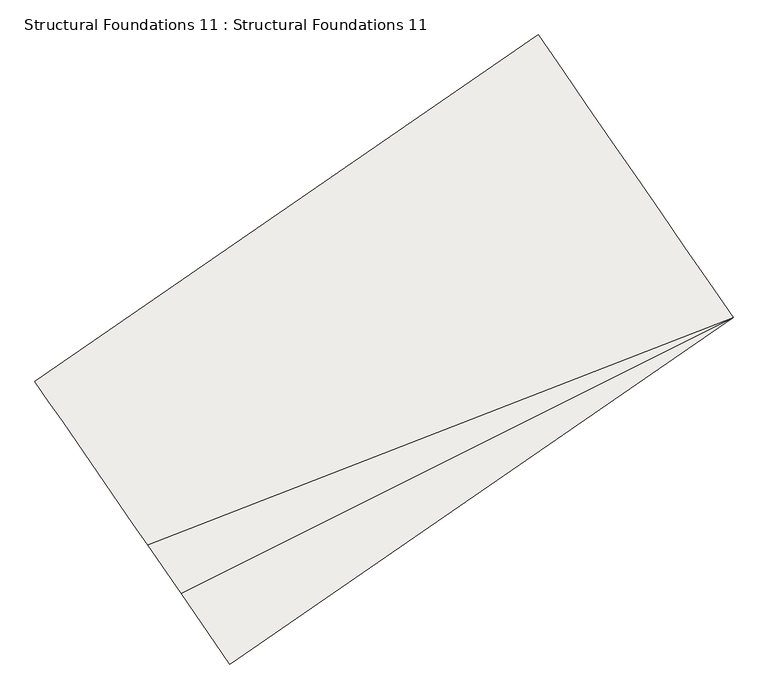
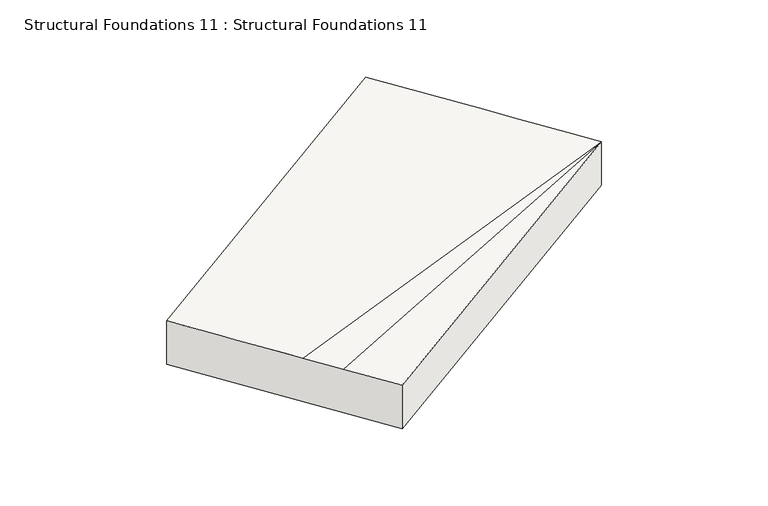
"""IFC4 building model written with IfcOpenShell, lengths in millimetres: slab geometry, Structural Foundations 11 : Structural Foundations 11."""

from ifc_helpers import new_model, si_unit, frame, origin, place, context, project, spatial, source, transform, mapped, element, save
from ifc_brep_helpers import plane_surface, spline_surface, advanced_brep


def structural_foundations_11_structural_foundations_11_d41efeac(model_context):
    return source(origin(), model_context, "Body", "AdvancedBrep", [
        advanced_brep(
        [(-347617.7813835, -440924.3515751, 634465.9999999), (-345802.5223121, -443559.6569667, 634465.9999999), (-345802.5223121, -443559.6569667, 633816.0), (-347617.7813835, -440924.3515751, 633816.0), (-352305.7594376, -444153.5388692, 634418.0), (-352305.7594376, -444153.5388692, 633768.0), (-350490.5003665, -446788.8442606, 633767.9999998), (-350490.5003665, -446788.8442606, 634417.9999998), (-350944.3151336, -446130.0179137, 634417.9999998), (-351256.3127869, -445677.0747989, 634417.9999999)],
        [
            (0, 1),
            (1, 2),
            (2, 3),
            (3, 0),
            (4, 5),
            (5, 6),
            (6, 7),
            (7, 8),
            (8, 9),
            (9, 4),
            (9, 1),
            (0, 4),
            (8, 1),
            (7, 1),
            (6, 2),
            (5, 3),
        ],
        [
            plane_surface(frame((-346710.1518478, -442242.0042709, 634140.9999999), z_axis=(0.8235329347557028, 0.5672684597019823, 0.0), x_axis=(-0.5672684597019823, 0.8235329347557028, 0.0))),
            plane_surface(frame((-351298.8579214, -445615.3098287, 634201.3333332), z_axis=(-0.8235329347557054, -0.5672684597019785, 0.0), x_axis=(0.5672684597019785, -0.8235329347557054, -7.956790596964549e-11))),
            spline_surface(1, 1, [[(-352305.7594376, -444153.5388692, 634418.0), (-347617.7813835, -440924.3515751, 634465.9999999)], [(-351256.3127869, -445677.0747989, 634417.9999999), (-345802.5223121, -443559.6569667, 634465.9999999)]], [2, 2], [2, 2], [0.0, 1.0], [0.0, 1.0]),
            plane_surface(frame((-351100.3139602, -445903.5463563, 634417.9999999), z_axis=(-0.006943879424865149, -0.004783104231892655, 0.9999644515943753), x_axis=(0.567268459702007, -0.8235329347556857, -7.963601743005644e-11))),
            plane_surface(frame((-350717.40775, -446459.4310871, 634417.9999998), z_axis=(-0.006943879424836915, -0.004783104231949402, 0.9999644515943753), x_axis=(0.5672684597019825, -0.8235329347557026, -7.969902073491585e-11))),
            plane_surface(frame((-350490.5003665, -446788.8442606, 634092.9999998), z_axis=(0.5672684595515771, -0.8235329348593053, 0.0), x_axis=(0.0, 0.0, -1.0))),
            spline_surface(1, 1, [[(-350490.5003665, -446788.8442606, 633767.9999998), (-345802.5223121, -443559.6569667, 633816.0)], [(-352305.7594376, -444153.5388692, 633768.0), (-347617.7813835, -440924.3515751, 633816.0)]], [2, 2], [2, 2], [0.0, 1.0], [0.0, 1.0]),
            plane_surface(frame((-352305.7594376, -444153.5388692, 634093.0), z_axis=(-0.5672684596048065, 0.8235329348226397, 0.0), x_axis=(0.0, 0.0, 1.0))),
        ],
        [
            (0, [[1, 2, 3, 4]]),
            (1, [[5, 6, 7, 8, 9, 10]]),
            (2, [[-10, 11, -1, 12]]),
            (3, [[-9, 13, -11]]),
            (4, [[-8, 14, -13]]),
            (5, [[-7, 15, -2, -14]]),
            (6, [[-6, 16, -3, -15]]),
            (7, [[-5, -12, -4, -16]]),
        ],
    ),
    ])


if __name__ == "__main__":
    model = new_model("IFC4")
    model_context = context("Model", 3, world=origin())
    ifc_project = project(units=[si_unit("LENGTHUNIT", "METRE", prefix="MILLI")], contexts=[model_context])
    site = spatial("IfcSite", under=ifc_project)
    building = spatial("IfcBuilding", under=site)
    placement = place(None, origin())
    structural_foundations_11_structural_foundations_11_shape = structural_foundations_11_structural_foundations_11_d41efeac(model_context)
    element("IfcSlab", 1, ObjectType="Structural Foundations 11 : Structural Foundations 11", at=placement, inside=building, context=model_context, shape_type="MappedRepresentation", body=[
        mapped(structural_foundations_11_structural_foundations_11_shape, transform((0.0, 0.0, 0.0), x_axis=(1.0, 0.0, 0.0), y_axis=(0.0, 1.0, 0.0), z_axis=(0.0, 0.0, 1.0))),
    ])
    save(model, "model.ifc")
